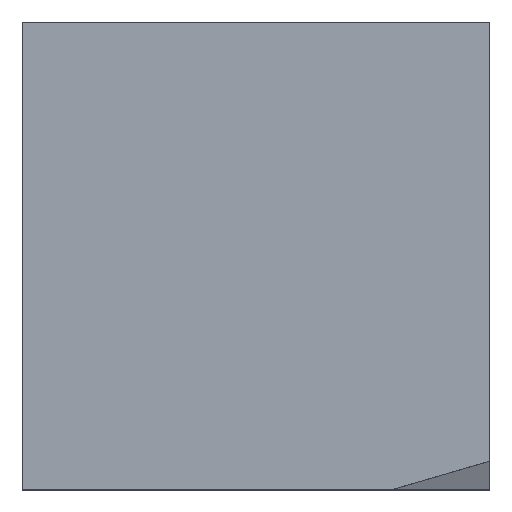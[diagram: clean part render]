
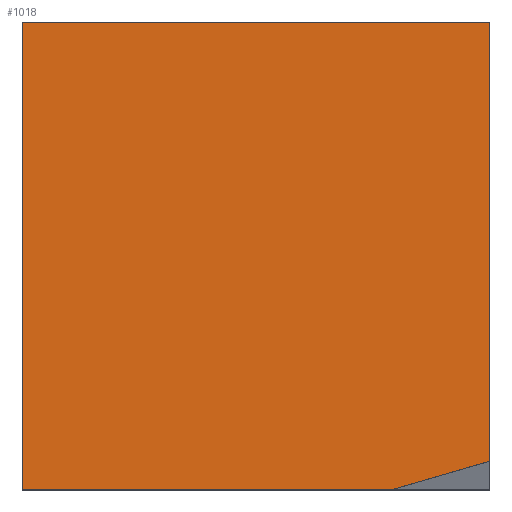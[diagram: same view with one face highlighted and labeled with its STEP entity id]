
A CAD part, top view. The second image highlights one B-rep face of the part: STEP entity #1018.
In plain terms, the highlighted planar face has unit normal (0, 0, 1).
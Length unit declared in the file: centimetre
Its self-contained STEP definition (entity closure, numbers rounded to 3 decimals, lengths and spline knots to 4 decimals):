
#9 = LINE ( 'NONE', #196, #1177 ) ;
#86 = DIRECTION ( 'NONE',  ( -1., 0., 0. ) ) ;
#88 = DIRECTION ( 'NONE',  ( -0.96, -0.28, 0. ) ) ;
#94 = DIRECTION ( 'NONE',  ( 1., 0., 0. ) ) ;
#134 = CARTESIAN_POINT ( 'NONE',  ( 0., 0., 1000. ) ) ;
#136 = EDGE_LOOP ( 'NONE', ( #758, #480, #166, #257, #179 ) ) ;
#166 = ORIENTED_EDGE ( 'NONE', *, *, #217, .T. ) ;
#179 = ORIENTED_EDGE ( 'NONE', *, *, #318, .T. ) ;
#188 = CARTESIAN_POINT ( 'NONE',  ( 1000., 1000., 1000. ) ) ;
#196 = CARTESIAN_POINT ( 'NONE',  ( 1000., 1000., 1000. ) ) ;
#217 = EDGE_CURVE ( 'NONE', #1024, #514, #477, .T. ) ;
#235 = EDGE_CURVE ( 'NONE', #957, #1024, #9, .T. ) ;
#247 = DIRECTION ( 'NONE',  ( 1., 0., 0. ) ) ;
#257 = ORIENTED_EDGE ( 'NONE', *, *, #735, .T. ) ;
#269 = CARTESIAN_POINT ( 'NONE',  ( 1000., 59.9994, 1000. ) ) ;
#285 = CARTESIAN_POINT ( 'NONE',  ( 0., 1000., 1000. ) ) ;
#292 = DIRECTION ( 'NONE',  ( 0., 1., 0. ) ) ;
#318 = EDGE_CURVE ( 'NONE', #928, #351, #1064, .T. ) ;
#340 = AXIS2_PLACEMENT_3D ( 'NONE', #822, #910, #94 ) ;
#346 = CARTESIAN_POINT ( 'NONE',  ( 0., 0., 1000. ) ) ;
#351 = VERTEX_POINT ( 'NONE', #874 ) ;
#460 = PLANE ( 'NONE',  #340 ) ;
#477 = LINE ( 'NONE', #834, #594 ) ;
#480 = ORIENTED_EDGE ( 'NONE', *, *, #235, .T. ) ;
#514 = VERTEX_POINT ( 'NONE', #900 ) ;
#528 = LINE ( 'NONE', #721, #536 ) ;
#536 = VECTOR ( 'NONE', #88, 100. ) ;
#594 = VECTOR ( 'NONE', #86, 100. ) ;
#714 = VECTOR ( 'NONE', #247, 100. ) ;
#717 = VECTOR ( 'NONE', #1025, 100. ) ;
#721 = CARTESIAN_POINT ( 'NONE',  ( 1000., 59.9994, 1000. ) ) ;
#735 = EDGE_CURVE ( 'NONE', #514, #928, #1112, .T. ) ;
#758 = ORIENTED_EDGE ( 'NONE', *, *, #1004, .F. ) ;
#822 = CARTESIAN_POINT ( 'NONE',  ( 0., 0., 1000. ) ) ;
#834 = CARTESIAN_POINT ( 'NONE',  ( 0., 1000., 1000. ) ) ;
#874 = CARTESIAN_POINT ( 'NONE',  ( 794.2311, 0., 1000. ) ) ;
#878 = FACE_OUTER_BOUND ( 'NONE', #136, .T. ) ;
#900 = CARTESIAN_POINT ( 'NONE',  ( 0., 1000., 1000. ) ) ;
#910 = DIRECTION ( 'NONE',  ( 0., 0., 1. ) ) ;
#928 = VERTEX_POINT ( 'NONE', #346 ) ;
#957 = VERTEX_POINT ( 'NONE', #269 ) ;
#1004 = EDGE_CURVE ( 'NONE', #957, #351, #528, .T. ) ;
#1018 = ADVANCED_FACE ( 'NONE', ( #878 ), #460, .T. ) ;
#1024 = VERTEX_POINT ( 'NONE', #188 ) ;
#1025 = DIRECTION ( 'NONE',  ( 0., -1., 0. ) ) ;
#1064 = LINE ( 'NONE', #134, #714 ) ;
#1112 = LINE ( 'NONE', #285, #717 ) ;
#1177 = VECTOR ( 'NONE', #292, 100. ) ;
